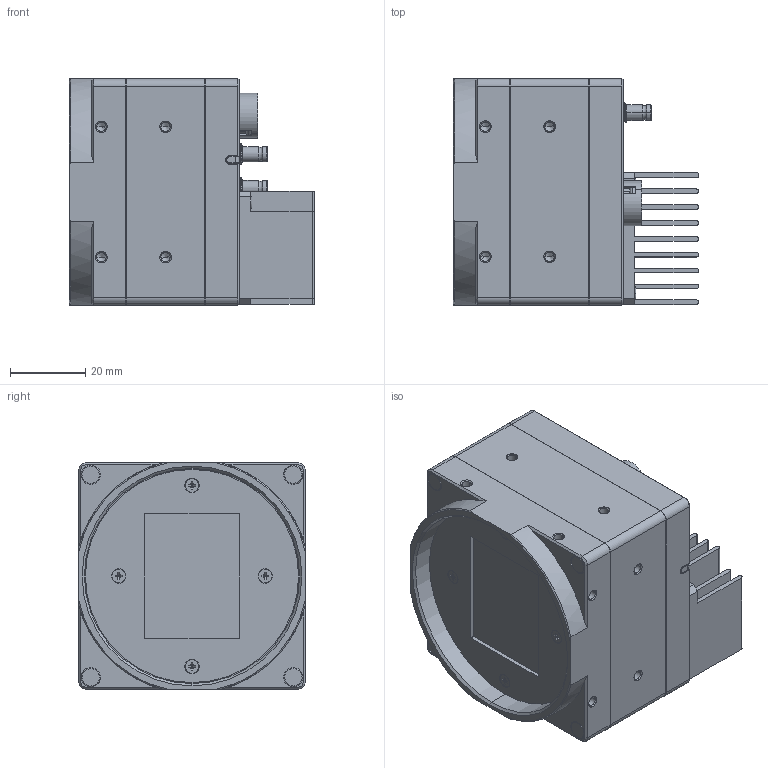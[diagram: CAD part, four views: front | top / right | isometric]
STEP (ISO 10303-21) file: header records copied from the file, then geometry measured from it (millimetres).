
FILE_DESCRIPTION((''),'2;1');
FILE_NAME('MV-CH120-40XM-M58','2023-06-27T19:39:44',('wangyijun6'),(''),'CREO PARAMETRIC BY PTC INC, 2017260','CREO PARAMETRIC BY PTC INC, 2017260','');
FILE_SCHEMA(('CONFIG_CONTROL_DESIGN'));
Products named in the file (1): MV-CH120-40XM-M58
Bounding box: 64.97 x 60 x 60 mm (x, y, z)
Volume: 133877.5 mm3; surface area: 48794.6 mm2
Topology: 1 solids, 18 shells, 1956 faces, 5513 edges, 3582 vertices
Faces by surface type: plane 890, cylinder 675, cone 276, bspline 60, torus 55
Entity records: 94422 total; most frequent: CARTESIAN_POINT 43774, ORIENTED_EDGE 10894, DIRECTION 10472, EDGE_CURVE 5455, AXIS2_PLACEMENT_3D 3869, VERTEX_POINT 3582, VECTOR 2734, LINE 2734
